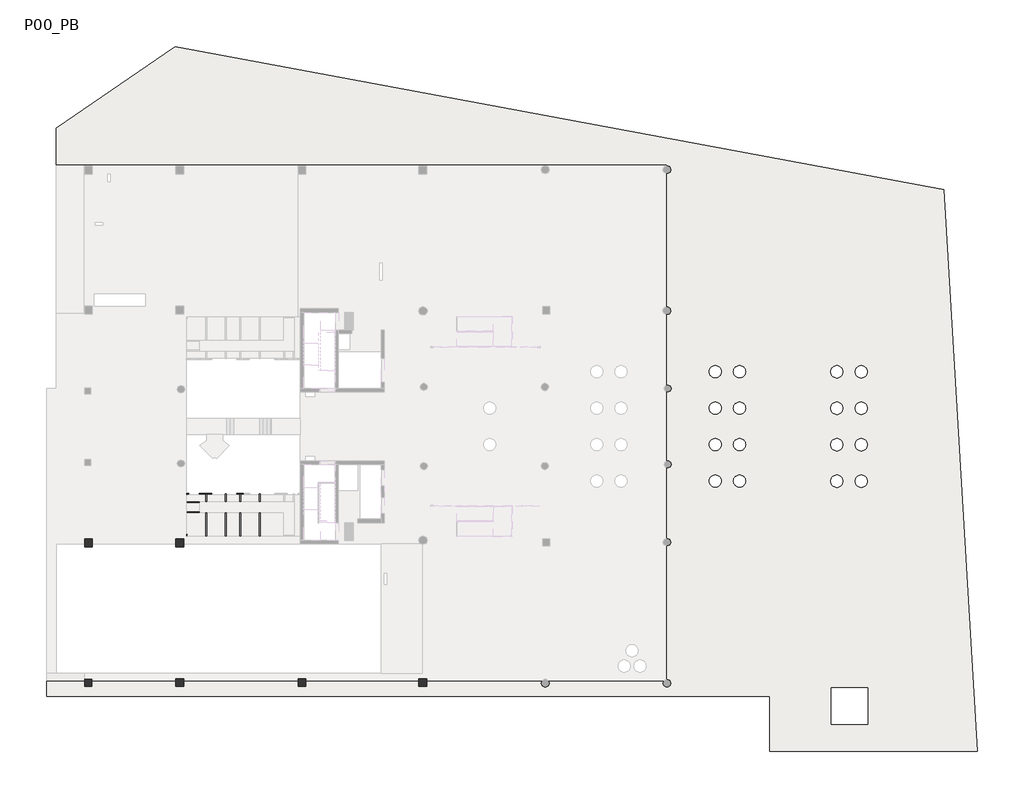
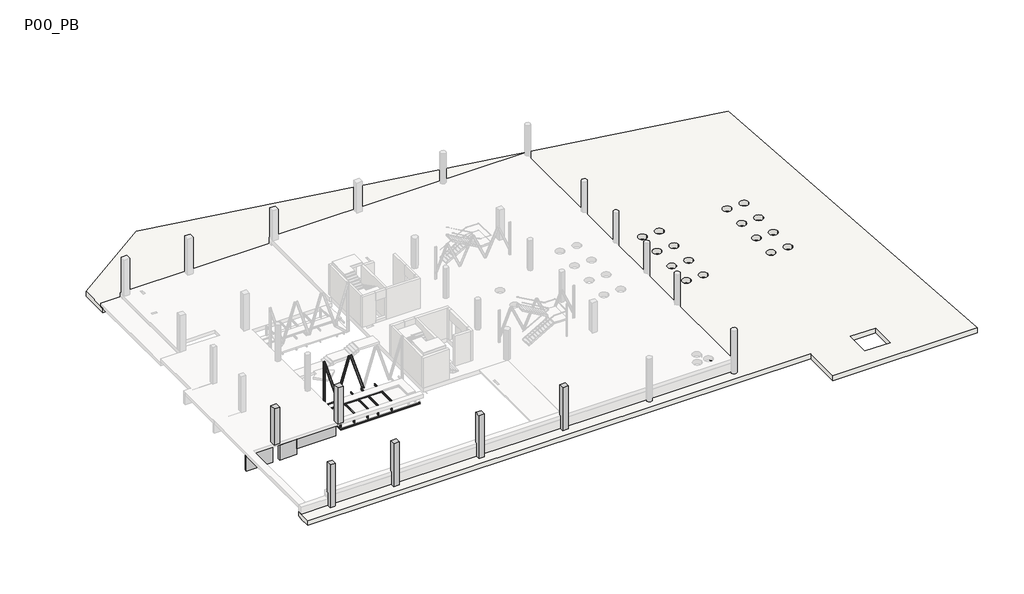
# One storey, part 2 of 7: 22 beams, 13 columns, 1 slab.
"""IFC4 building model written with IfcOpenShell, lengths in millimetres."""

from ifc_helpers import new_model, si_unit, frame, origin, place, context, project, spatial, polyline, circle_curve, outline, extrude, faceted_brep, transform, mapped, element, save
from ifc_brep_helpers import plane_surface, revolved_surface, advanced_brep
from components import ub_universal_beams_ipe_160x82_45623c42, ub_universal_beams_ipe_160x82_d60b5671, ub_universal_beams_ipe_160x82_16e40fe9, upn120x55_2e91fe93, upn120x55_dd576345, upn120x55_d7d90911, upn200x75_bf5f1a6f, upn200x75_abedd545, upn200x75_99ddc015, ub_universal_beam_column_ipe_160x82_506ee74c, upn_200x75_e6625032, upn_200x75_16539f99

model = new_model("IFC4")

# Units and contexts
model_context = context("Model", 3, world=origin())
ifc_project = project(units=[si_unit("LENGTHUNIT", "METRE", prefix="MILLI")], contexts=[model_context])

# Site, building, storey
site = spatial("IfcSite", under=ifc_project)
building = spatial("IfcBuilding", under=site)
storey = spatial("IfcBuildingStorey", under=building, Name="P00_PB", Elevation=6330.0)

# Beams
placement = place(None, origin())
element("IfcBeam", 1, ObjectType="M_Concrete-Rectangular Beam : 300 x 1550mm", at=placement, inside=storey, context=model_context, shape_type="SweptSolid", body=[
    extrude(outline(polyline([(-23941.1835957, -5185.1039321), (-28595.2980588, -5185.1039321), (-28595.2980588, -4885.1039321), (-23941.1835957, -4885.1039321), (-23941.1835957, -5185.1039321)])), frame((0.0, 0.0, 4780.0), z_axis=(0.0, 0.0, 1.0), x_axis=(1.0, 0.0, 0.0)), (0.0, 0.0, 1.0), 1150.0),
])
element("IfcBeam", 2, ObjectType="M_Concrete-Rectangular Beam : 300 x 2280mm", at=placement, inside=storey, context=model_context, shape_type="Brep", body=[
    faceted_brep([(-30615.2955908, -4885.1039321, 4050.0), (-30615.2955908, -5185.1039321, 4050.0), (-30615.2955908, -5185.1039321, 5930.0), (-30615.2955908, -4885.1039321, 5930.0), (-28595.2980588, -5185.1039321, 4050.0), (-28595.2980588, -5185.1039321, 4780.0), (-28595.2980588, -5185.1039321, 5930.0), (-28595.2980588, -4885.1039321, 4050.0), (-28595.2980588, -4885.1039321, 5930.0), (-28595.2980588, -4885.1039321, 4780.0)], [[[0, 1, 2, 3]], [[1, 4, 5, 6, 2]], [[1, 0, 7, 4]], [[7, 0, 3, 8, 9]], [[3, 2, 6, 8]], [[4, 7, 9, 8, 6, 5]]]),
])
element("IfcBeam", 3, ObjectType="M_Concrete-Rectangular Beam : 300 x 2280mm", at=placement, inside=storey, context=model_context, shape_type="Brep", body=[
    faceted_brep([(-34517.5141763, -4885.1039418, 4050.0), (-34517.5141754, -5185.1039418, 4050.0), (-34517.5141754, -5185.1039418, 5930.0), (-34517.5141763, -4885.1039418, 5930.0), (-31415.2980584, -5185.1039331, 4050.0), (-31415.2980592, -4885.1039331, 4050.0), (-31415.2980592, -4885.1039331, 5930.0), (-31415.2980584, -5185.1039331, 5930.0), (-33717.5141758, -5185.1039396, 5930.0)], [[[0, 1, 2, 3]], [[4, 5, 6, 7]], [[1, 4, 7, 8, 2]], [[1, 0, 5, 4]], [[5, 0, 3, 6]], [[3, 2, 8, 7, 6]]]),
])
ub_universal_beams_ipe_160x82_shape = ub_universal_beams_ipe_160x82_45623c42(model_context)
element("IfcBeam", 4, ObjectType="UB-Universal Beams : IPE 160x82", at=placement, inside=storey, context=model_context, shape_type="MappedRepresentation", body=[
    mapped(ub_universal_beams_ipe_160x82_shape, transform((-16990.4459316, -2796.6938622, 4860.0), x_axis=(0.0, 1.0, 0.0), y_axis=(-1.0, 0.0, 0.0), z_axis=(0.0, 0.0, 1.0))),
])
element("IfcBeam", 5, ObjectType="UB-Universal Beams : IPE 160x82", at=placement, inside=storey, context=model_context, shape_type="MappedRepresentation", body=[
    mapped(ub_universal_beams_ipe_160x82_shape, transform((-18590.4459308, -2796.6938369, 4860.0), x_axis=(0.0, 1.0, 0.0), y_axis=(-1.0, 0.0, 0.0), z_axis=(0.0, 0.0, 1.0))),
])
element("IfcBeam", 6, ObjectType="UB-Universal Beams : IPE 160x82", at=placement, inside=storey, context=model_context, shape_type="MappedRepresentation", body=[
    mapped(ub_universal_beams_ipe_160x82_shape, transform((-19790.4459314, -2796.6938178, 4860.0), x_axis=(0.0, 1.0, 0.0), y_axis=(-1.0, 0.0, 0.0), z_axis=(0.0, 0.0, 1.0))),
])
element("IfcBeam", 7, ObjectType="UB-Universal Beams : IPE 160x82", at=placement, inside=storey, context=model_context, shape_type="MappedRepresentation", body=[
    mapped(ub_universal_beams_ipe_160x82_shape, transform((-21390.4459306, -2796.6937925, 4860.0), x_axis=(0.0, 1.0, 0.0), y_axis=(-1.0, 0.0, 0.0), z_axis=(0.0, 0.0, 1.0))),
])
element("IfcBeam", 8, ObjectType="UB-Universal Beams : IPE 160x82", at=placement, inside=storey, context=model_context, shape_type="MappedRepresentation", body=[
    mapped(ub_universal_beams_ipe_160x82_shape, transform((-22991.1860553, -2796.6937671, 4860.0), x_axis=(0.0, 1.0, 0.0), y_axis=(-1.0, 0.0, 0.0), z_axis=(0.0, 0.0, 1.0))),
])
ub_universal_beams_ipe_160x82_2_shape = ub_universal_beams_ipe_160x82_d60b5671(model_context)
element("IfcBeam", 9, ObjectType="UB-Universal Beams : IPE 160x82", at=placement, inside=storey, context=model_context, shape_type="MappedRepresentation", body=[
    mapped(ub_universal_beams_ipe_160x82_2_shape, transform((-18315.7538491, -4518.7004929, 4860.0), x_axis=(1.0, 0.0, 0.0), y_axis=(0.0, 1.0, 0.0), z_axis=(0.0, 0.0, 1.0))),
])
ub_universal_beams_ipe_160x82_3_shape = ub_universal_beams_ipe_160x82_16e40fe9(model_context)
element("IfcBeam", 10, ObjectType="UB-Universal Beams : IPE 160x82", at=placement, inside=storey, context=model_context, shape_type="MappedRepresentation", body=[
    mapped(ub_universal_beams_ipe_160x82_3_shape, transform((-16990.4459316, -2817.6368991, 6250.0), x_axis=(0.0, 1.0, 0.0), y_axis=(-1.0, 0.0, 0.0), z_axis=(0.0, 0.0, 1.0))),
])
element("IfcBeam", 11, ObjectType="UB-Universal Beams : IPE 160x82", at=placement, inside=storey, context=model_context, shape_type="MappedRepresentation", body=[
    mapped(ub_universal_beams_ipe_160x82_3_shape, transform((-18590.4459308, -2817.6368432, 6250.0), x_axis=(0.0, 1.0, 0.0), y_axis=(-1.0, 0.0, 0.0), z_axis=(0.0, 0.0, 1.0))),
])
element("IfcBeam", 12, ObjectType="UB-Universal Beams : IPE 160x82", at=placement, inside=storey, context=model_context, shape_type="MappedRepresentation", body=[
    mapped(ub_universal_beams_ipe_160x82_3_shape, transform((-19790.4459314, -2817.6368012, 6250.0), x_axis=(0.0, 1.0, 0.0), y_axis=(-1.0, 0.0, 0.0), z_axis=(0.0, 0.0, 1.0))),
])
element("IfcBeam", 13, ObjectType="UB-Universal Beams : IPE 160x82", at=placement, inside=storey, context=model_context, shape_type="MappedRepresentation", body=[
    mapped(ub_universal_beams_ipe_160x82_3_shape, transform((-21390.4459306, -2817.6367453, 6250.0), x_axis=(0.0, 1.0, 0.0), y_axis=(-1.0, 0.0, 0.0), z_axis=(0.0, 0.0, 1.0))),
])
upn120x55_shape = upn120x55_2e91fe93(model_context)
element("IfcBeam", 14, ObjectType="M_MC Shapes : UPN120x55", at=placement, inside=storey, context=model_context, shape_type="MappedRepresentation", body=[
    mapped(upn120x55_shape, transform((-20590.445931, -2572.1872377, 6270.0), x_axis=(0.9999999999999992, -4.0441322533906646e-08, 0.0), y_axis=(4.0441322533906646e-08, 0.9999999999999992, 0.0), z_axis=(0.0, 0.0, 1.0))),
])
element("IfcBeam", 15, ObjectType="M_MC Shapes : UPN120x55", at=placement, inside=storey, context=model_context, shape_type="MappedRepresentation", body=[
    mapped(upn120x55_shape, transform((-17790.4459312, -2572.1873509, 6270.0), x_axis=(0.9999999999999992, -4.0441322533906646e-08, 0.0), y_axis=(4.0441322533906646e-08, 0.9999999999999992, 0.0), z_axis=(0.0, 0.0, 1.0))),
])
element("IfcBeam", 16, ObjectType="M_MC Shapes : UPN120x55", at=placement, inside=storey, context=model_context, shape_type="MappedRepresentation", body=[
    mapped(upn120x55_shape, transform((-20590.445931, -1772.1872411, 6270.0), x_axis=(0.9999999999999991, -4.319868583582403e-08, 0.0), y_axis=(4.319868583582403e-08, 0.9999999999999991, 0.0), z_axis=(0.0, 0.0, 1.0))),
])
upn120x55_2_shape = upn120x55_dd576345(model_context)
element("IfcBeam", 17, ObjectType="M_MC Shapes : UPN120x55", at=placement, inside=storey, context=model_context, shape_type="MappedRepresentation", body=[
    mapped(upn120x55_2_shape, transform((-19190.4459311, -2572.1872943, 6270.0), x_axis=(0.9999999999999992, -4.0441322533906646e-08, 0.0), y_axis=(4.0441322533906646e-08, 0.9999999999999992, 0.0), z_axis=(0.0, 0.0, 1.0))),
])
upn120x55_3_shape = upn120x55_d7d90911(model_context)
element("IfcBeam", 18, ObjectType="M_MC Shapes : UPN120x55", at=placement, inside=storey, context=model_context, shape_type="MappedRepresentation", body=[
    mapped(upn120x55_3_shape, transform((-22165.4459321, -2572.187174, 6270.0), x_axis=(0.9999999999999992, -4.0441322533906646e-08, 0.0), y_axis=(4.0441322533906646e-08, 0.9999999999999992, 0.0), z_axis=(0.0, 0.0, 1.0))),
])
element("IfcBeam", 19, ObjectType="M_MC Shapes : UPN120x55", at=placement, inside=storey, context=model_context, shape_type="MappedRepresentation", body=[
    mapped(upn120x55_3_shape, transform((-22165.4459321, -1772.1871731, 6270.0), x_axis=(0.9999999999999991, -4.319868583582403e-08, 0.0), y_axis=(4.319868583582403e-08, 0.9999999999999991, 0.0), z_axis=(0.0, 0.0, 1.0))),
])
upn200x75_shape = upn200x75_bf5f1a6f(model_context)
element("IfcBeam", 20, ObjectType="M_MC Shapes : UPN200x75", at=placement, inside=storey, context=model_context, shape_type="MappedRepresentation", body=[
    mapped(upn200x75_shape, transform((-20708.7971118, -1021.4872842, 8548.5552235), x_axis=(0.29719015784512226, -1.1085026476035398e-08, 0.9548183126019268), y_axis=(-3.7299436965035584e-08, -0.9999999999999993, 0.0), z_axis=(0.9548183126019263, -3.5614185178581e-08, -0.297190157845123))),
])
upn200x75_2_shape = upn200x75_abedd545(model_context)
element("IfcBeam", 21, ObjectType="M_MC Shapes : UPN200x75", at=placement, inside=storey, context=model_context, shape_type="MappedRepresentation", body=[
    mapped(upn200x75_2_shape, transform((-19074.3583913, -1021.4872841, 8548.5828668), x_axis=(-0.2977430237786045, -1.110811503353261e-08, 0.9546460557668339), y_axis=(-3.730772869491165e-08, 0.9999999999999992, 0.0), z_axis=(-0.9546460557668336, -3.561567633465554e-08, -0.2977430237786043))),
])
upn200x75_3_shape = upn200x75_99ddc015(model_context)
element("IfcBeam", 22, ObjectType="M_MC Shapes : UPN200x75", at=placement, inside=storey, context=model_context, shape_type="MappedRepresentation", body=[
    mapped(upn200x75_3_shape, transform((-22168.8363475, -1021.487285, 8573.415577), x_axis=(-0.2966255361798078, -1.179124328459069e-08, 0.9549938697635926), y_axis=(-3.975127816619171e-08, 0.9999999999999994, 0.0), z_axis=(-0.9549938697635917, -3.7962227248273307e-08, -0.2966255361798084))),
])

# Columns
element("IfcColumn", 23, ObjectType="Concrete-Rectangular-Column : Pilar_Rectangular-Formigo-600x600", at=placement, inside=storey, context=model_context, shape_type="Brep", body=[
    faceted_brep([(-30790.3343773, -16910.1033985, 5480.0), (-31390.3343773, -16910.1033999, 5480.0), (-31390.3343784, -16435.5567211, 5480.0), (-30790.3343784, -16435.5445729, 5480.0), (-30790.3343787, -16310.1033985, 10860.0), (-30790.3343773, -16910.1033985, 10860.0), (-30790.3343773, -16910.1033985, 10610.0), (-30790.3343784, -16435.5445729, 6600.0), (-30790.3343787, -16310.1033985, 6600.0), (-30790.3343787, -16310.1033985, 10610.0), (-31390.3343773, -16910.1033999, 10860.0), (-31390.3343773, -16910.1033999, 10610.0), (-31390.3343787, -16310.1033999, 10860.0), (-31390.3343787, -16310.1033999, 10610.0), (-31390.3343787, -16310.1033999, 6600.0), (-31390.3343784, -16435.556721, 6600.0)], [[[0, 1, 2, 3]], [[4, 5, 6, 0, 3, 7, 8, 9]], [[1, 0, 6, 5, 10, 11]], [[1, 11, 10, 12, 13, 14, 15, 2]], [[12, 4, 9, 8, 14, 13]], [[5, 4, 12, 10]], [[15, 7, 3, 2]], [[7, 15, 14, 8]]]),
])
element("IfcColumn", 24, ObjectType="Concrete-Rectangular-Column : Pilar_Rectangular-Formigo-650x650", at=placement, inside=storey, context=model_context, shape_type="Brep", body=[
    faceted_brep([(-23240.1498563, -16910.1030577, 5480.0), (-23890.1498563, -16910.103053, 5480.0), (-23890.1498529, -16435.4048639, 5480.0), (-23240.1498529, -16435.3917032, 5480.0), (-23240.1498516, -16260.1030577, 10860.0), (-23240.1498563, -16910.1030577, 10860.0), (-23240.1498563, -16910.1030577, 10610.0), (-23240.1498529, -16435.3917032, 6600.0), (-23240.1498516, -16260.1030577, 6600.0), (-23240.1498516, -16260.1030577, 10610.0), (-23890.1498563, -16910.103053, 10860.0), (-23890.1498563, -16910.103053, 10610.0), (-23890.1498516, -16260.103053, 10860.0), (-23890.1498516, -16260.103053, 10610.0), (-23890.1498516, -16260.103053, 6600.0), (-23890.1498529, -16435.4048639, 6600.0)], [[[0, 1, 2, 3]], [[4, 5, 6, 0, 3, 7, 8, 9]], [[1, 0, 6, 5, 10, 11]], [[1, 11, 10, 12, 13, 14, 15, 2]], [[12, 4, 9, 8, 14, 13]], [[5, 4, 12, 10]], [[15, 7, 3, 2]], [[7, 15, 14, 8]]]),
])
element("IfcColumn", 25, ObjectType="Concrete-Rectangular-Column : Pilar_Rectangular-Formigo-650x650", at=placement, inside=storey, context=model_context, shape_type="Brep", body=[
    faceted_brep([(-13190.2931113, -16910.586336, 5480.0), (-13840.2931113, -16910.5863346, 5480.0), (-13840.2931103, -16435.2013831, 5480.0), (-13190.2931103, -16435.1882224, 5480.0), (-13190.2931099, -16260.586336, 10860.0), (-13190.2931113, -16910.586336, 10860.0), (-13190.2931113, -16910.586336, 10610.0), (-13190.2931103, -16435.1882224, 6600.0), (-13190.2931099, -16260.586336, 6600.0), (-13190.2931099, -16260.586336, 10610.0), (-13840.2931113, -16910.5863346, 10860.0), (-13840.2931113, -16910.5863346, 10610.0), (-13840.2931099, -16260.5863346, 10860.0), (-13840.2931099, -16260.5863346, 10610.0), (-13840.2931099, -16260.5863346, 6600.0), (-13840.2931103, -16435.2013831, 6600.0)], [[[0, 1, 2, 3]], [[4, 5, 6, 0, 3, 7, 8, 9]], [[1, 0, 6, 5, 10, 11]], [[1, 11, 10, 12, 13, 14, 15, 2]], [[12, 4, 9, 8, 14, 13]], [[5, 4, 12, 10]], [[15, 7, 3, 2]], [[7, 15, 14, 8]]]),
])
element("IfcColumn", 26, ObjectType="Concrete-Rectangular-Column : Pilar_Rectangular-Formigo-650x650", at=placement, inside=storey, context=model_context, shape_type="Brep", body=[
    faceted_brep([(-3266.6084959, -16910.5863299, 5480.0), (-3916.6084959, -16910.5863289, 5480.0), (-3916.6084952, -16435.0004569, 5480.0), (-3266.6084952, -16434.9872962, 5480.0), (-3266.608495, -16260.5863299, 10860.0), (-3266.6084959, -16910.5863299, 10860.0), (-3266.6084959, -16910.5863299, 10610.0), (-3266.6084952, -16434.9872962, 6600.0), (-3266.608495, -16260.5863299, 6600.0), (-3266.608495, -16260.5863299, 10610.0), (-3916.6084959, -16910.5863289, 10860.0), (-3916.6084959, -16910.5863289, 10610.0), (-3916.608495, -16260.5863289, 10860.0), (-3916.608495, -16260.5863289, 10610.0), (-3916.608495, -16260.5863289, 6600.0), (-3916.6084952, -16435.0004569, 6600.0)], [[[0, 1, 2, 3]], [[4, 5, 6, 0, 3, 7, 8, 9]], [[1, 0, 6, 5, 10, 11]], [[1, 11, 10, 12, 13, 14, 15, 2]], [[12, 4, 9, 8, 14, 13]], [[5, 4, 12, 10]], [[15, 7, 3, 2]], [[7, 15, 14, 8]]]),
])
element("IfcColumn", 27, ObjectType="Concrete-Rectangular-Column : Pilar_Rectangular-Formigo-650x650", at=placement, inside=storey, context=model_context, shape_type="Brep", body=[
    faceted_brep([(-31391.2004174, -4760.5863532, 6330.0), (-30741.2004174, -4760.5863522, 6330.0), (-30741.2004164, -5410.5863522, 6330.0), (-31391.2004164, -5410.5863532, 6330.0), (-31391.2004174, -4760.5863532, 10860.0), (-30741.2004174, -4760.5863522, 10860.0), (-30741.2004174, -4760.5863522, 10610.0), (-31391.2004174, -4760.5863532, 10610.0), (-30741.2004164, -5410.5863522, 10860.0), (-30741.2004164, -5410.5863522, 10610.0), (-31391.2004164, -5410.5863532, 10860.0), (-31391.2004164, -5410.5863532, 10610.0)], [[[0, 1, 2, 3]], [[4, 5, 6, 1, 0, 7]], [[5, 8, 9, 2, 1, 6]], [[8, 10, 11, 3, 2, 9]], [[10, 4, 7, 0, 3, 11]], [[4, 10, 8, 5]]]),
])
element("IfcColumn", 28, ObjectType="Concrete-Rectangular-Column : Pilar_Rectangular-Formigo-650x650", at=placement, inside=storey, context=model_context, shape_type="Brep", body=[
    faceted_brep([(-23891.1584477, -5410.5863697, 6330.0), (-23891.1584445, -4760.5863697, 6330.0), (-23241.1584445, -4760.586373, 6330.0), (-23241.1584477, -5410.586373, 6330.0), (-23891.1584477, -5410.5863697, 10860.0), (-23891.1584445, -4760.5863697, 10860.0), (-23891.1584445, -4760.5863697, 10610.0), (-23891.1584477, -5410.5863697, 10610.0), (-23241.1584445, -4760.586373, 10860.0), (-23241.1584445, -4760.586373, 10610.0), (-23241.1584477, -5410.586373, 10860.0), (-23241.1584477, -5410.586373, 10610.0)], [[[0, 1, 2, 3]], [[4, 5, 6, 1, 0, 7]], [[5, 8, 9, 2, 1, 6]], [[8, 10, 11, 3, 2, 9]], [[10, 4, 7, 0, 3, 11]], [[4, 10, 8, 5]]]),
])
ub_universal_beam_column_ipe_160x82_shape = ub_universal_beam_column_ipe_160x82_506ee74c(model_context)
element("IfcColumn", 29, ObjectType="UB-Universal Beam-Column : IPE_160x82", at=placement, inside=storey, context=model_context, shape_type="MappedRepresentation", body=[
    mapped(ub_universal_beam_column_ipe_160x82_shape, transform((-22991.1860553, -4479.7004929, 0.0), x_axis=(1.0, 0.0, 0.0), y_axis=(0.0, 1.0, 0.0), z_axis=(0.0, 0.0, 1.0))),
])
element("IfcColumn", 30, ObjectType="UB-Universal Beam-Column : IPE_160x82", at=placement, inside=storey, context=model_context, shape_type="MappedRepresentation", body=[
    mapped(ub_universal_beam_column_ipe_160x82_shape, transform((-21390.4459306, -4479.7004929, 0.0), x_axis=(1.0, 0.0, 0.0), y_axis=(0.0, 1.0, 0.0), z_axis=(0.0, 0.0, 1.0))),
])
element("IfcColumn", 31, ObjectType="UB-Universal Beam-Column : IPE_160x82", at=placement, inside=storey, context=model_context, shape_type="MappedRepresentation", body=[
    mapped(ub_universal_beam_column_ipe_160x82_shape, transform((-19790.4459314, -4479.7004929, 0.0), x_axis=(1.0, 0.0, 0.0), y_axis=(0.0, 1.0, 0.0), z_axis=(0.0, 0.0, 1.0))),
])
element("IfcColumn", 32, ObjectType="UB-Universal Beam-Column : IPE_160x82", at=placement, inside=storey, context=model_context, shape_type="MappedRepresentation", body=[
    mapped(ub_universal_beam_column_ipe_160x82_shape, transform((-18590.4459308, -4479.7004929, 0.0), x_axis=(1.0, 0.0, 0.0), y_axis=(0.0, 1.0, 0.0), z_axis=(0.0, 0.0, 1.0))),
])
element("IfcColumn", 33, ObjectType="UB-Universal Beam-Column : IPE_160x82", at=placement, inside=storey, context=model_context, shape_type="MappedRepresentation", body=[
    mapped(ub_universal_beam_column_ipe_160x82_shape, transform((-16990.4459316, -4479.7004929, 0.0), x_axis=(1.0, 0.0, 0.0), y_axis=(0.0, 1.0, 0.0), z_axis=(0.0, 0.0, 1.0))),
])
upn_200x75_shape = upn_200x75_e6625032(model_context)
element("IfcColumn", 34, ObjectType="M_MC Shapes-Column : UPN 200x75", at=placement, inside=storey, context=model_context, shape_type="MappedRepresentation", body=[
    mapped(upn_200x75_shape, transform((-22940.3175214, -1036.9870429, 0.0), x_axis=(-3.122957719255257e-08, -0.9999999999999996, 0.0), y_axis=(0.9999999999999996, -3.122957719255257e-08, 0.0), z_axis=(0.0, 0.0, 1.0))),
])
upn_200x75_2_shape = upn_200x75_16539f99(model_context)
element("IfcColumn", 35, ObjectType="M_MC Shapes-Column : UPN 200x75", at=placement, inside=storey, context=model_context, shape_type="MappedRepresentation", body=[
    mapped(upn_200x75_2_shape, transform((-22940.3175214, -1036.9870429, 0.0), x_axis=(-3.122957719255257e-08, -0.9999999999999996, 0.0), y_axis=(0.9999999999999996, -3.122957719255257e-08, 0.0), z_axis=(0.0, 0.0, 1.0))),
])

# Slab
element("IfcSlab", 36, ObjectType="Forjat_Llosa-Formigo-600", at=placement, inside=storey, context=model_context, shape_type="AdvancedBrep", body=[
    advanced_brep(
    [(-23930.3270635, 35743.361696, 4880.0), (39264.3843442, 23967.0549216, 4880.0), (42020.1412186, -22244.215902, 4880.0), (24944.4016946, -22244.1958056, 4880.0), (24944.4019396, -17733.5176819, 4880.0), (-34517.5141758, -17732.0589913, 4880.0), (-34517.5141758, -16435.6200376, 4880.0), (-34517.5141758, -15835.6200374, 4880.0), (-28595.3041329, -15835.5001296, 4880.0), (15834.6998202, -15834.6005493, 4880.0), (15834.5750237, -5185.1034115, 4880.0), (6884.6790932, -5185.1034074, 4880.0), (6884.6790932, -4585.1034073, 4880.0), (15834.5679926, -4585.10341, 4880.0), (15834.2143858, 25589.8921014, 4880.0), (-33717.5141758, 25589.9010504, 4880.0), (-33717.5141758, 29038.6998048, 4880.0), (32984.2108509, -17035.2141635, 4880.0), (29984.2108541, -17035.2141635, 4880.0), (29984.2108541, -20035.2826558, 4880.0), (32984.2108509, -20035.2826558, 4880.0), (19959.8034846, -10.2137645, 4880.0), (20959.8035015, -10.2137645, 4880.0), (21959.8035017, -10.2137636, 4880.0), (22959.8034919, -10.2137636, 4880.0), (19959.8034905, 2989.7862398, 4880.0), (20959.8035074, 2989.7862398, 4880.0), (21959.8035075, 2989.7862406, 4880.0), (22959.8034978, 2989.7862406, 4880.0), (19959.8034865, 5989.7862352, 4880.0), (20959.8035034, 5989.7862352, 4880.0), (21959.8035036, 5989.786236, 4880.0), (22959.8034939, 5989.786236, 4880.0), (19959.8034902, 8989.7862344, 4880.0), (20959.8035071, 8989.7862344, 4880.0), (21959.8035073, 8989.7862352, 4880.0), (22959.8034975, 8989.7862352, 4880.0), (29964.1125609, -16.6651538, 4880.0), (30964.1125779, -16.6651538, 4880.0), (31964.112578, -16.665153, 4880.0), (32964.1125683, -16.665153, 4880.0), (29964.1125668, 2983.3348504, 4880.0), (30964.1125837, 2983.3348504, 4880.0), (31964.1125839, 2983.3348512, 4880.0), (32964.1125741, 2983.3348512, 4880.0), (29964.1125628, 5983.3348459, 4880.0), (30964.1125798, 5983.3348459, 4880.0), (31964.1125799, 5983.3348467, 4880.0), (32964.1125702, 5983.3348467, 4880.0), (29964.1125665, 8983.334845, 4880.0), (30964.1125835, 8983.334845, 4880.0), (31964.1125836, 8983.3348458, 4880.0), (32964.1125739, 8983.3348458, 4880.0), (-23930.3270635, 35743.361696, 5480.0), (-33717.5141758, 29038.6998048, 5480.0), (-33717.5141758, 25589.9010504, 5480.0), (15834.2143858, 25589.8921014, 5480.0), (15834.5679926, -4585.10341, 5480.0), (6884.6790932, -4585.1034073, 5480.0), (6884.6790932, -5185.1034074, 5480.0), (15834.5750237, -5185.1034115, 5480.0), (15834.6998202, -15834.6005493, 5480.0), (-31390.3404532, -15835.5567211, 5480.0), (-34517.5141758, -15835.6200374, 5480.0), (-34517.5141758, -16435.6200376, 5480.0), (-34517.5141758, -17732.0589913, 5480.0), (24944.4019396, -17733.5176819, 5480.0), (24944.4016946, -22244.1958056, 5480.0), (42020.1412186, -22244.215902, 5480.0), (39264.3843442, 23967.0549216, 5480.0), (32984.2108509, -17035.2141635, 5480.0), (32984.2108509, -20035.2826558, 5480.0), (29984.2108541, -20035.2826558, 5480.0), (29984.2108541, -17035.2141635, 5480.0), (19959.8034846, -10.2137645, 5480.0), (20959.8035015, -10.2137645, 5480.0), (21959.8035017, -10.2137636, 5480.0), (22959.8034919, -10.2137636, 5480.0), (19959.8034905, 2989.7862398, 5480.0), (20959.8035074, 2989.7862398, 5480.0), (21959.8035075, 2989.7862406, 5480.0), (22959.8034978, 2989.7862406, 5480.0), (19959.8034865, 5989.7862352, 5480.0), (20959.8035034, 5989.7862352, 5480.0), (21959.8035036, 5989.786236, 5480.0), (22959.8034939, 5989.786236, 5480.0), (19959.8034902, 8989.7862344, 5480.0), (20959.8035071, 8989.7862344, 5480.0), (21959.8035073, 8989.7862352, 5480.0), (22959.8034975, 8989.7862352, 5480.0), (29964.1125609, -16.6651538, 5480.0), (30964.1125779, -16.6651538, 5480.0), (31964.112578, -16.665153, 5480.0), (32964.1125683, -16.665153, 5480.0), (29964.1125668, 2983.3348504, 5480.0), (30964.1125837, 2983.3348504, 5480.0), (31964.1125839, 2983.3348512, 5480.0), (32964.1125741, 2983.3348512, 5480.0), (29964.1125628, 5983.3348459, 5480.0), (30964.1125798, 5983.3348459, 5480.0), (31964.1125799, 5983.3348467, 5480.0), (32964.1125702, 5983.3348467, 5480.0), (29964.1125665, 8983.334845, 5480.0), (30964.1125835, 8983.334845, 5480.0), (31964.1125836, 8983.3348458, 5480.0), (32964.1125739, 8983.3348458, 5480.0)],
    [
        (0, 1),
        (1, 2),
        (2, 3),
        (3, 4),
        (4, 5),
        (5, 6),
        (6, 7),
        (7, 8),
        (8, 9),
        (9, 10),
        (10, 11),
        (11, 12),
        (12, 13),
        (13, 14),
        (14, 15),
        (15, 16),
        (16, 0),
        (17, 18),
        (18, 19),
        (19, 20),
        (20, 17),
        (21, 22, circle_curve(frame((20459.8034931, -10.2137645, 4880.0), z_axis=(0.0, 0.0, 1.0), x_axis=(1.0, 0.0, 0.0)), 500.0000085)),
        (22, 21, circle_curve(frame((20459.8034931, -10.2137645, 4880.0), z_axis=(0.0, 0.0, 1.0), x_axis=(1.0, 0.0, 0.0)), 500.0000085)),
        (23, 24, circle_curve(frame((22459.8034968, -10.2137636, 4880.0), z_axis=(0.0, 0.0, 1.0), x_axis=(1.0, 0.0, 0.0)), 499.9999951)),
        (24, 23, circle_curve(frame((22459.8034968, -10.2137636, 4880.0), z_axis=(0.0, 0.0, 1.0), x_axis=(1.0, 0.0, 0.0)), 499.9999951)),
        (25, 26, circle_curve(frame((20459.803499, 2989.7862398, 4880.0), z_axis=(0.0, 0.0, 1.0), x_axis=(1.0, 0.0, 0.0)), 500.0000085)),
        (26, 25, circle_curve(frame((20459.803499, 2989.7862398, 4880.0), z_axis=(0.0, 0.0, 1.0), x_axis=(1.0, 0.0, 0.0)), 500.0000085)),
        (27, 28, circle_curve(frame((22459.8035027, 2989.7862406, 4880.0), z_axis=(0.0, 0.0, 1.0), x_axis=(1.0, 0.0, 0.0)), 499.9999951)),
        (28, 27, circle_curve(frame((22459.8035027, 2989.7862406, 4880.0), z_axis=(0.0, 0.0, 1.0), x_axis=(1.0, 0.0, 0.0)), 499.9999951)),
        (29, 30, circle_curve(frame((20459.803495, 5989.7862352, 4880.0), z_axis=(0.0, 0.0, 1.0), x_axis=(1.0, 0.0, 0.0)), 500.0000085)),
        (30, 29, circle_curve(frame((20459.803495, 5989.7862352, 4880.0), z_axis=(0.0, 0.0, 1.0), x_axis=(1.0, 0.0, 0.0)), 500.0000085)),
        (31, 32, circle_curve(frame((22459.8034987, 5989.786236, 4880.0), z_axis=(0.0, 0.0, 1.0), x_axis=(1.0, 0.0, 0.0)), 499.9999951)),
        (32, 31, circle_curve(frame((22459.8034987, 5989.786236, 4880.0), z_axis=(0.0, 0.0, 1.0), x_axis=(1.0, 0.0, 0.0)), 499.9999951)),
        (33, 34, circle_curve(frame((20459.8034987, 8989.7862344, 4880.0), z_axis=(0.0, 0.0, 1.0), x_axis=(1.0, 0.0, 0.0)), 500.0000085)),
        (34, 33, circle_curve(frame((20459.8034987, 8989.7862344, 4880.0), z_axis=(0.0, 0.0, 1.0), x_axis=(1.0, 0.0, 0.0)), 500.0000085)),
        (35, 36, circle_curve(frame((22459.8035024, 8989.7862352, 4880.0), z_axis=(0.0, 0.0, 1.0), x_axis=(1.0, 0.0, 0.0)), 499.9999951)),
        (36, 35, circle_curve(frame((22459.8035024, 8989.7862352, 4880.0), z_axis=(0.0, 0.0, 1.0), x_axis=(1.0, 0.0, 0.0)), 499.9999951)),
        (37, 38, circle_curve(frame((30464.1125694, -16.6651538, 4880.0), z_axis=(0.0, 0.0, 1.0), x_axis=(1.0, 0.0, 0.0)), 500.0000085)),
        (38, 37, circle_curve(frame((30464.1125694, -16.6651538, 4880.0), z_axis=(0.0, 0.0, 1.0), x_axis=(1.0, 0.0, 0.0)), 500.0000085)),
        (39, 40, circle_curve(frame((32464.1125731, -16.665153, 4880.0), z_axis=(0.0, 0.0, 1.0), x_axis=(1.0, 0.0, 0.0)), 499.9999951)),
        (40, 39, circle_curve(frame((32464.1125731, -16.665153, 4880.0), z_axis=(0.0, 0.0, 1.0), x_axis=(1.0, 0.0, 0.0)), 499.9999951)),
        (41, 42, circle_curve(frame((30464.1125753, 2983.3348504, 4880.0), z_axis=(0.0, 0.0, 1.0), x_axis=(1.0, 0.0, 0.0)), 500.0000085)),
        (42, 41, circle_curve(frame((30464.1125753, 2983.3348504, 4880.0), z_axis=(0.0, 0.0, 1.0), x_axis=(1.0, 0.0, 0.0)), 500.0000085)),
        (43, 44, circle_curve(frame((32464.112579, 2983.3348512, 4880.0), z_axis=(0.0, 0.0, 1.0), x_axis=(1.0, 0.0, 0.0)), 499.9999951)),
        (44, 43, circle_curve(frame((32464.112579, 2983.3348512, 4880.0), z_axis=(0.0, 0.0, 1.0), x_axis=(1.0, 0.0, 0.0)), 499.9999951)),
        (45, 46, circle_curve(frame((30464.1125713, 5983.3348459, 4880.0), z_axis=(0.0, 0.0, 1.0), x_axis=(1.0, 0.0, 0.0)), 500.0000085)),
        (46, 45, circle_curve(frame((30464.1125713, 5983.3348459, 4880.0), z_axis=(0.0, 0.0, 1.0), x_axis=(1.0, 0.0, 0.0)), 500.0000085)),
        (47, 48, circle_curve(frame((32464.112575, 5983.3348467, 4880.0), z_axis=(0.0, 0.0, 1.0), x_axis=(1.0, 0.0, 0.0)), 499.9999951)),
        (48, 47, circle_curve(frame((32464.112575, 5983.3348467, 4880.0), z_axis=(0.0, 0.0, 1.0), x_axis=(1.0, 0.0, 0.0)), 499.9999951)),
        (49, 50, circle_curve(frame((30464.112575, 8983.334845, 4880.0), z_axis=(0.0, 0.0, 1.0), x_axis=(1.0, 0.0, 0.0)), 500.0000085)),
        (50, 49, circle_curve(frame((30464.112575, 8983.334845, 4880.0), z_axis=(0.0, 0.0, 1.0), x_axis=(1.0, 0.0, 0.0)), 500.0000085)),
        (51, 52, circle_curve(frame((32464.1125787, 8983.3348458, 4880.0), z_axis=(0.0, 0.0, 1.0), x_axis=(1.0, 0.0, 0.0)), 499.9999951)),
        (52, 51, circle_curve(frame((32464.1125787, 8983.3348458, 4880.0), z_axis=(0.0, 0.0, 1.0), x_axis=(1.0, 0.0, 0.0)), 499.9999951)),
        (53, 54),
        (54, 55),
        (55, 56),
        (56, 57),
        (57, 58),
        (58, 59),
        (59, 60),
        (60, 61),
        (61, 62),
        (62, 63),
        (63, 64),
        (64, 65),
        (65, 66),
        (66, 67),
        (67, 68),
        (68, 69),
        (69, 53),
        (70, 71),
        (71, 72),
        (72, 73),
        (73, 70),
        (74, 75, circle_curve(frame((20459.8034931, -10.2137645, 5480.0), z_axis=(0.0, 0.0, -1.0), x_axis=(1.0, 0.0, 0.0)), 500.0000085)),
        (75, 74, circle_curve(frame((20459.8034931, -10.2137645, 5480.0), z_axis=(0.0, 0.0, -1.0), x_axis=(1.0, 0.0, 0.0)), 500.0000085)),
        (76, 77, circle_curve(frame((22459.8034968, -10.2137636, 5480.0), z_axis=(0.0, 0.0, -1.0), x_axis=(1.0, 0.0, 0.0)), 499.9999951)),
        (77, 76, circle_curve(frame((22459.8034968, -10.2137636, 5480.0), z_axis=(0.0, 0.0, -1.0), x_axis=(1.0, 0.0, 0.0)), 499.9999951)),
        (78, 79, circle_curve(frame((20459.803499, 2989.7862398, 5480.0), z_axis=(0.0, 0.0, -1.0), x_axis=(1.0, 0.0, 0.0)), 500.0000085)),
        (79, 78, circle_curve(frame((20459.803499, 2989.7862398, 5480.0), z_axis=(0.0, 0.0, -1.0), x_axis=(1.0, 0.0, 0.0)), 500.0000085)),
        (80, 81, circle_curve(frame((22459.8035027, 2989.7862406, 5480.0), z_axis=(0.0, 0.0, -1.0), x_axis=(1.0, 0.0, 0.0)), 499.9999951)),
        (81, 80, circle_curve(frame((22459.8035027, 2989.7862406, 5480.0), z_axis=(0.0, 0.0, -1.0), x_axis=(1.0, 0.0, 0.0)), 499.9999951)),
        (82, 83, circle_curve(frame((20459.803495, 5989.7862352, 5480.0), z_axis=(0.0, 0.0, -1.0), x_axis=(1.0, 0.0, 0.0)), 500.0000085)),
        (83, 82, circle_curve(frame((20459.803495, 5989.7862352, 5480.0), z_axis=(0.0, 0.0, -1.0), x_axis=(1.0, 0.0, 0.0)), 500.0000085)),
        (84, 85, circle_curve(frame((22459.8034987, 5989.786236, 5480.0), z_axis=(0.0, 0.0, -1.0), x_axis=(1.0, 0.0, 0.0)), 499.9999951)),
        (85, 84, circle_curve(frame((22459.8034987, 5989.786236, 5480.0), z_axis=(0.0, 0.0, -1.0), x_axis=(1.0, 0.0, 0.0)), 499.9999951)),
        (86, 87, circle_curve(frame((20459.8034987, 8989.7862344, 5480.0), z_axis=(0.0, 0.0, -1.0), x_axis=(1.0, 0.0, 0.0)), 500.0000085)),
        (87, 86, circle_curve(frame((20459.8034987, 8989.7862344, 5480.0), z_axis=(0.0, 0.0, -1.0), x_axis=(1.0, 0.0, 0.0)), 500.0000085)),
        (88, 89, circle_curve(frame((22459.8035024, 8989.7862352, 5480.0), z_axis=(0.0, 0.0, -1.0), x_axis=(1.0, 0.0, 0.0)), 499.9999951)),
        (89, 88, circle_curve(frame((22459.8035024, 8989.7862352, 5480.0), z_axis=(0.0, 0.0, -1.0), x_axis=(1.0, 0.0, 0.0)), 499.9999951)),
        (90, 91, circle_curve(frame((30464.1125694, -16.6651538, 5480.0), z_axis=(0.0, 0.0, -1.0), x_axis=(1.0, 0.0, 0.0)), 500.0000085)),
        (91, 90, circle_curve(frame((30464.1125694, -16.6651538, 5480.0), z_axis=(0.0, 0.0, -1.0), x_axis=(1.0, 0.0, 0.0)), 500.0000085)),
        (92, 93, circle_curve(frame((32464.1125731, -16.665153, 5480.0), z_axis=(0.0, 0.0, -1.0), x_axis=(1.0, 0.0, 0.0)), 499.9999951)),
        (93, 92, circle_curve(frame((32464.1125731, -16.665153, 5480.0), z_axis=(0.0, 0.0, -1.0), x_axis=(1.0, 0.0, 0.0)), 499.9999951)),
        (94, 95, circle_curve(frame((30464.1125753, 2983.3348504, 5480.0), z_axis=(0.0, 0.0, -1.0), x_axis=(1.0, 0.0, 0.0)), 500.0000085)),
        (95, 94, circle_curve(frame((30464.1125753, 2983.3348504, 5480.0), z_axis=(0.0, 0.0, -1.0), x_axis=(1.0, 0.0, 0.0)), 500.0000085)),
        (96, 97, circle_curve(frame((32464.112579, 2983.3348512, 5480.0), z_axis=(0.0, 0.0, -1.0), x_axis=(1.0, 0.0, 0.0)), 499.9999951)),
        (97, 96, circle_curve(frame((32464.112579, 2983.3348512, 5480.0), z_axis=(0.0, 0.0, -1.0), x_axis=(1.0, 0.0, 0.0)), 499.9999951)),
        (98, 99, circle_curve(frame((30464.1125713, 5983.3348459, 5480.0), z_axis=(0.0, 0.0, -1.0), x_axis=(1.0, 0.0, 0.0)), 500.0000085)),
        (99, 98, circle_curve(frame((30464.1125713, 5983.3348459, 5480.0), z_axis=(0.0, 0.0, -1.0), x_axis=(1.0, 0.0, 0.0)), 500.0000085)),
        (100, 101, circle_curve(frame((32464.112575, 5983.3348467, 5480.0), z_axis=(0.0, 0.0, -1.0), x_axis=(1.0, 0.0, 0.0)), 499.9999951)),
        (101, 100, circle_curve(frame((32464.112575, 5983.3348467, 5480.0), z_axis=(0.0, 0.0, -1.0), x_axis=(1.0, 0.0, 0.0)), 499.9999951)),
        (102, 103, circle_curve(frame((30464.112575, 8983.334845, 5480.0), z_axis=(0.0, 0.0, -1.0), x_axis=(1.0, 0.0, 0.0)), 500.0000085)),
        (103, 102, circle_curve(frame((30464.112575, 8983.334845, 5480.0), z_axis=(0.0, 0.0, -1.0), x_axis=(1.0, 0.0, 0.0)), 500.0000085)),
        (104, 105, circle_curve(frame((32464.1125787, 8983.3348458, 5480.0), z_axis=(0.0, 0.0, -1.0), x_axis=(1.0, 0.0, 0.0)), 499.9999951)),
        (105, 104, circle_curve(frame((32464.1125787, 8983.3348458, 5480.0), z_axis=(0.0, 0.0, -1.0), x_axis=(1.0, 0.0, 0.0)), 499.9999951)),
        (0, 53),
        (69, 1),
        (68, 2),
        (67, 3),
        (66, 4),
        (65, 5),
        (15, 55),
        (54, 16),
        (63, 7),
        (61, 9),
        (13, 57),
        (56, 14),
        (17, 70),
        (73, 18),
        (72, 19),
        (71, 20),
        (21, 74),
        (75, 22),
        (23, 76),
        (77, 24),
        (25, 78),
        (79, 26),
        (27, 80),
        (81, 28),
        (29, 82),
        (83, 30),
        (31, 84),
        (85, 32),
        (33, 86),
        (87, 34),
        (35, 88),
        (89, 36),
        (37, 90),
        (91, 38),
        (39, 92),
        (93, 40),
        (41, 94),
        (95, 42),
        (43, 96),
        (97, 44),
        (45, 98),
        (99, 46),
        (47, 100),
        (101, 48),
        (49, 102),
        (103, 50),
        (51, 104),
        (105, 52),
        (60, 10),
        (59, 11),
        (58, 12),
    ],
    [
        plane_surface(frame((39264.3843442, 23967.0549216, 4880.0), z_axis=(0.0, 0.0, -1.0), x_axis=(0.983076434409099, -0.18319586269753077, 0.0))),
        plane_surface(frame((39264.3843442, 23967.0549216, 5480.0), z_axis=(0.0, 0.0, 1.0), x_axis=(-0.983076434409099, 0.18319586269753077, 0.0))),
        plane_surface(frame((-23930.3270635, 35743.361696, 4880.0), z_axis=(0.18319586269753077, 0.983076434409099, 0.0), x_axis=(0.0, 0.0, 1.0))),
        plane_surface(frame((39264.3843442, 23967.0549216, 4880.0), z_axis=(0.9982266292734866, 0.05952811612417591, 0.0), x_axis=(0.0, 0.0, 1.0))),
        plane_surface(frame((42020.1412186, -22244.215902, 4880.0), z_axis=(-1.1769006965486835e-06, -0.9999999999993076, 0.0), x_axis=(0.0, 0.0, 1.0))),
        plane_surface(frame((24944.4016946, -22244.1958056, 4880.0), z_axis=(-0.9999999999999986, 5.430163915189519e-08, 0.0), x_axis=(0.0, 0.0, 1.0))),
        plane_surface(frame((24944.4019396, -17733.5176819, 4880.0), z_axis=(-2.4531510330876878e-05, -0.9999999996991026, 0.0), x_axis=(0.0, 0.0, 1.0))),
        plane_surface(frame((-33717.5141758, 25589.9010504, 4880.0), z_axis=(-1.0, 0.0, 0.0), x_axis=(0.0, 0.0, 1.0))),
        plane_surface(frame((-33717.5141758, 29038.6998048, 4880.0), z_axis=(-0.5651526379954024, 0.8249863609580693, 0.0), x_axis=(0.0, 0.0, 1.0))),
        plane_surface(frame((-34517.5141758, -17732.0589913, 4880.0), z_axis=(-1.0, 0.0, 0.0), x_axis=(0.0, 0.0, 1.0))),
        plane_surface(frame((-34517.5141758, -15835.6200374, 4880.0), z_axis=(-2.0247136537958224e-05, 0.9999999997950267, 0.0), x_axis=(0.0, 0.0, 1.0))),
        plane_surface(frame((15834.5679926, -4585.10341, 4880.0), z_axis=(-0.999999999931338, -1.1718535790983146e-05, 0.0), x_axis=(0.0, 0.0, 1.0))),
        plane_surface(frame((15834.2143858, 25589.8921014, 4880.0), z_axis=(-1.805993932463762e-07, -0.9999999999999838, 0.0), x_axis=(0.0, 0.0, 1.0))),
        plane_surface(frame((32984.2108509, -17035.2141635, 4880.0), z_axis=(0.0, -1.0, 0.0), x_axis=(0.0, 0.0, 1.0))),
        plane_surface(frame((29984.2108541, -17035.2141635, 4880.0), z_axis=(1.0, 0.0, 0.0), x_axis=(0.0, 0.0, 1.0))),
        plane_surface(frame((29984.2108541, -20035.2826558, 4880.0), z_axis=(0.0, 1.0, 0.0), x_axis=(0.0, 0.0, 1.0))),
        plane_surface(frame((32984.2108509, -20035.2826558, 4880.0), z_axis=(-1.0, 0.0, 0.0), x_axis=(0.0, 0.0, 1.0))),
        revolved_surface(polyline([(20959.8035016, -10.2137645, 5480.0), (20959.8035016, -10.2137645, 4880.0)]), (20459.8034931, -10.2137645, 6330.0), (0.0, 0.0, 1.0)),
        revolved_surface(polyline([(22959.8034919, -10.2137636, 5480.0), (22959.8034919, -10.2137636, 4880.0)]), (22459.8034968, -10.2137636, 6330.0), (0.0, 0.0, 1.0)),
        revolved_surface(polyline([(20959.8035075, 2989.7862398, 5480.0), (20959.8035075, 2989.7862398, 4880.0)]), (20459.803499, 2989.7862398, 6330.0), (0.0, 0.0, 1.0)),
        revolved_surface(polyline([(22959.8034978, 2989.7862406, 5480.0), (22959.8034978, 2989.7862406, 4880.0)]), (22459.8035027, 2989.7862406, 6330.0), (0.0, 0.0, 1.0)),
        revolved_surface(polyline([(20959.8035035, 5989.7862352, 5480.0), (20959.8035035, 5989.7862352, 4880.0)]), (20459.803495, 5989.7862352, 6330.0), (0.0, 0.0, 1.0)),
        revolved_surface(polyline([(22959.8034938, 5989.786236, 5480.0), (22959.8034938, 5989.786236, 4880.0)]), (22459.8034987, 5989.786236, 6330.0), (0.0, 0.0, 1.0)),
        revolved_surface(polyline([(20959.8035072, 8989.7862344, 5480.0), (20959.8035072, 8989.7862344, 4880.0)]), (20459.8034987, 8989.7862344, 6330.0), (0.0, 0.0, 1.0)),
        revolved_surface(polyline([(22959.803497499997, 8989.7862352, 5480.0), (22959.803497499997, 8989.7862352, 4880.0)]), (22459.8035024, 8989.7862352, 6330.0), (0.0, 0.0, 1.0)),
        revolved_surface(polyline([(30964.1125779, -16.6651538, 5480.0), (30964.1125779, -16.6651538, 4880.0)]), (30464.1125694, -16.6651538, 6330.0), (0.0, 0.0, 1.0)),
        revolved_surface(polyline([(32964.1125682, -16.665153, 5480.0), (32964.1125682, -16.665153, 4880.0)]), (32464.1125731, -16.665153, 6330.0), (0.0, 0.0, 1.0)),
        revolved_surface(polyline([(30964.1125838, 2983.3348504, 5480.0), (30964.1125838, 2983.3348504, 4880.0)]), (30464.1125753, 2983.3348504, 6330.0), (0.0, 0.0, 1.0)),
        revolved_surface(polyline([(32964.1125741, 2983.3348512, 5480.0), (32964.1125741, 2983.3348512, 4880.0)]), (32464.112579, 2983.3348512, 6330.0), (0.0, 0.0, 1.0)),
        revolved_surface(polyline([(30964.1125798, 5983.3348459, 5480.0), (30964.1125798, 5983.3348459, 4880.0)]), (30464.1125713, 5983.3348459, 6330.0), (0.0, 0.0, 1.0)),
        revolved_surface(polyline([(32964.1125701, 5983.3348467, 5480.0), (32964.1125701, 5983.3348467, 4880.0)]), (32464.112575, 5983.3348467, 6330.0), (0.0, 0.0, 1.0)),
        revolved_surface(polyline([(30964.1125835, 8983.334845, 5480.0), (30964.1125835, 8983.334845, 4880.0)]), (30464.112575, 8983.334845, 6330.0), (0.0, 0.0, 1.0)),
        revolved_surface(polyline([(32964.1125738, 8983.3348458, 5480.0), (32964.1125738, 8983.3348458, 4880.0)]), (32464.1125787, 8983.3348458, 6330.0), (0.0, 0.0, 1.0)),
        plane_surface(frame((15834.6998202, -15834.6005493, 4880.0), z_axis=(-0.999999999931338, -1.1718535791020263e-05, 0.0), x_axis=(0.0, 0.0, 1.0))),
        plane_surface(frame((15834.5750237, -5185.1034115, 4880.0), z_axis=(-4.5600633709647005e-10, -1.0, 0.0), x_axis=(0.0, 0.0, 1.0))),
        plane_surface(frame((6884.6790932, -5185.1034074, 4880.0), z_axis=(-1.0, 0.0, 0.0), x_axis=(0.0, 0.0, 1.0))),
        plane_surface(frame((6884.6790932, -4585.1034073, 4880.0), z_axis=(2.9725791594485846e-10, 1.0, 0.0), x_axis=(0.0, 0.0, 1.0))),
    ],
    [
        (0, [[1, 2, 3, 4, 5, 6, 7, 8, 9, 10, 11, 12, 13, 14, 15, 16, 17], [18, 19, 20, 21], [22, 23], [24, 25], [26, 27], [28, 29], [30, 31], [32, 33], [34, 35], [36, 37], [38, 39], [40, 41], [42, 43], [44, 45], [46, 47], [48, 49], [50, 51], [52, 53]]),
        (1, [[54, 55, 56, 57, 58, 59, 60, 61, 62, 63, 64, 65, 66, 67, 68, 69, 70], [71, 72, 73, 74], [75, 76], [77, 78], [79, 80], [81, 82], [83, 84], [85, 86], [87, 88], [89, 90], [91, 92], [93, 94], [95, 96], [97, 98], [99, 100], [101, 102], [103, 104], [105, 106]]),
        (2, [[-1, 107, -70, 108]]),
        (3, [[-2, -108, -69, 109]]),
        (4, [[-3, -109, -68, 110]]),
        (5, [[-4, -110, -67, 111]]),
        (6, [[-5, -111, -66, 112]]),
        (7, [[-16, 113, -55, 114]]),
        (8, [[-17, -114, -54, -107]]),
        (9, [[-7, -6, -112, -65, -64, 115]]),
        (10, [[-9, -8, -115, -63, -62, 116]]),
        (11, [[-14, 117, -57, 118]]),
        (12, [[-15, -118, -56, -113]]),
        (13, [[-18, 119, -74, 120]]),
        (14, [[-19, -120, -73, 121]]),
        (15, [[-20, -121, -72, 122]]),
        (16, [[-21, -122, -71, -119]]),
        (17, [[-22, 123, -76, 124]]),
        (17, [[-23, -124, -75, -123]]),
        (18, [[-24, 125, -78, 126]]),
        (18, [[-25, -126, -77, -125]]),
        (19, [[-26, 127, -80, 128]]),
        (19, [[-27, -128, -79, -127]]),
        (20, [[-28, 129, -82, 130]]),
        (20, [[-29, -130, -81, -129]]),
        (21, [[-30, 131, -84, 132]]),
        (21, [[-31, -132, -83, -131]]),
        (22, [[-32, 133, -86, 134]]),
        (22, [[-33, -134, -85, -133]]),
        (23, [[-34, 135, -88, 136]]),
        (23, [[-35, -136, -87, -135]]),
        (24, [[-36, 137, -90, 138]]),
        (24, [[-37, -138, -89, -137]]),
        (25, [[-38, 139, -92, 140]]),
        (25, [[-39, -140, -91, -139]]),
        (26, [[-40, 141, -94, 142]]),
        (26, [[-41, -142, -93, -141]]),
        (27, [[-42, 143, -96, 144]]),
        (27, [[-43, -144, -95, -143]]),
        (28, [[-44, 145, -98, 146]]),
        (28, [[-45, -146, -97, -145]]),
        (29, [[-46, 147, -100, 148]]),
        (29, [[-47, -148, -99, -147]]),
        (30, [[-48, 149, -102, 150]]),
        (30, [[-49, -150, -101, -149]]),
        (31, [[-50, 151, -104, 152]]),
        (31, [[-51, -152, -103, -151]]),
        (32, [[-52, 153, -106, 154]]),
        (32, [[-53, -154, -105, -153]]),
        (33, [[-10, -116, -61, 155]]),
        (34, [[-11, -155, -60, 156]]),
        (35, [[-12, -156, -59, 157]]),
        (36, [[-13, -157, -58, -117]]),
    ],
),
])

save(model, "model.ifc")
